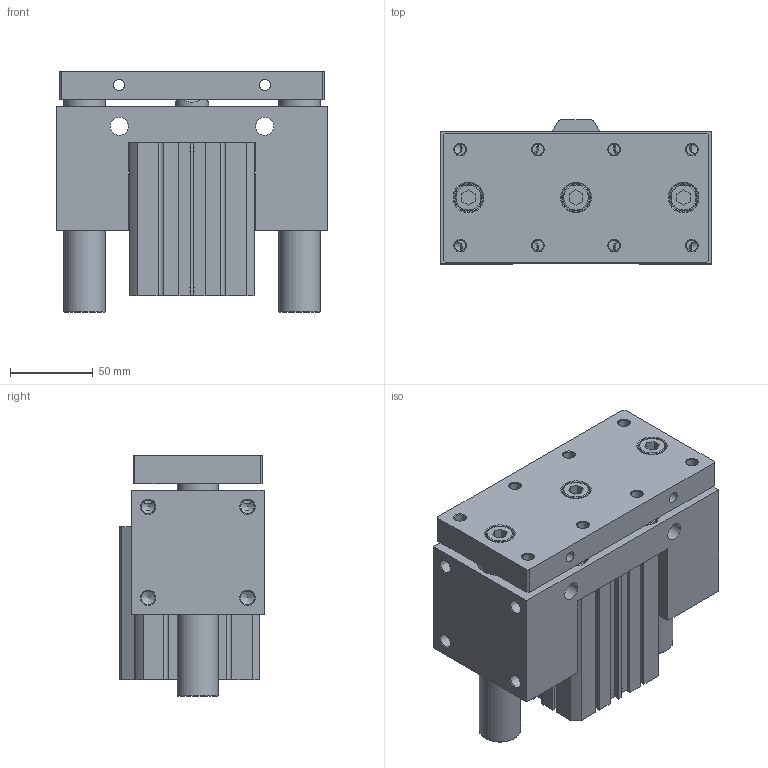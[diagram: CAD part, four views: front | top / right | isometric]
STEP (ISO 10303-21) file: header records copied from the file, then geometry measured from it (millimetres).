
FILE_DESCRIPTION((''),'2;1');
FILE_NAME('I:\3D電子目錄\氣缸\JCB\JCB\JCB63-S\JCB63x50-S.stp','2007-09-01T15:31:07',('Administrator'),(''),'Autodesk Inventor 11','Autodesk Inventor 11','');
FILE_SCHEMA(('AUTOMOTIVE_DESIGN { 1 0 10303 214 1 1 1 1 }'));
Length unit declared in the file: millimetre
Products named in the file (1): JCB63
Bounding box: 164 x 87 x 145.5 mm (x, y, z)
Volume: 1347831 mm3; surface area: 209064.1 mm2
Topology: 3 solids, 5 shells, 343 faces, 829 edges, 538 vertices
Faces by surface type: plane 186, cylinder 62, cone 47, bspline 40, torus 8
Full cylindrical faces by diameter (mm): 3 x2, 6.8 x4, 8.376 x4, 11 x8, 13 x4, 14 x4, 16 x3, 17.5 x3, 20 x1, 21 x1, 25 x2, 28 x2, 40 x1, 47 x1, 65 x4, 68 x2
Entity records: 10008 total; most frequent: CARTESIAN_POINT 2670, DIRECTION 1474, ORIENTED_EDGE 1320, EDGE_CURVE 660, EDGE_LOOP 554, AXIS2_PLACEMENT_3D 532, VERTEX_POINT 498, VECTOR 410
